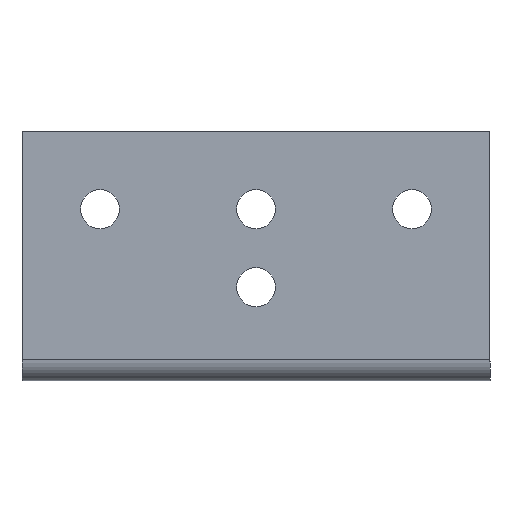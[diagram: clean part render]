
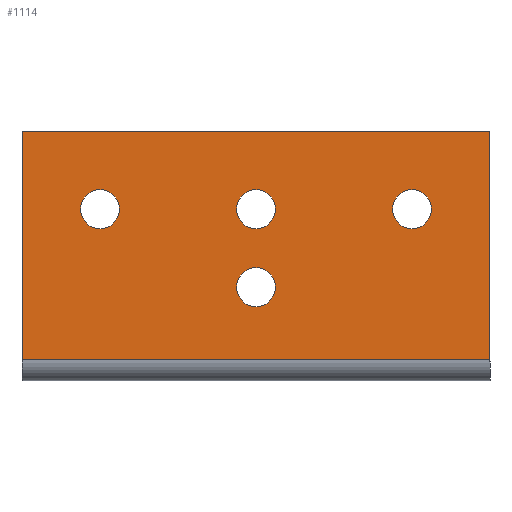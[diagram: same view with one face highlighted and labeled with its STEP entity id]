
A CAD part, front view. The second image highlights one B-rep face of the part: STEP entity #1114.
In plain terms, the highlighted planar face has unit normal (0, -1, 0).
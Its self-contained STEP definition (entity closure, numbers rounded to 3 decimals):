
#2 = CARTESIAN_POINT ( 'NONE',  ( 10., -2., -10. ) ) ;
#35 = DIRECTION ( 'NONE',  ( 0., 1., 0. ) ) ;
#51 = FACE_BOUND ( 'NONE', #857, .T. ) ;
#64 = CIRCLE ( 'NONE', #981, 2.5 ) ;
#65 = EDGE_CURVE ( 'NONE', #602, #1084, #356, .T. ) ;
#80 = CARTESIAN_POINT ( 'NONE',  ( 50., -2., -10. ) ) ;
#84 = DIRECTION ( 'NONE',  ( 0., 0., 1. ) ) ;
#107 = VECTOR ( 'NONE', #768, 1000. ) ;
#113 = EDGE_CURVE ( 'NONE', #634, #464, #713, .T. ) ;
#124 = LINE ( 'NONE', #564, #107 ) ;
#134 = DIRECTION ( 'NONE',  ( 0., 0., 1. ) ) ;
#164 = DIRECTION ( 'NONE',  ( 0., 0., 1. ) ) ;
#184 = EDGE_CURVE ( 'NONE', #1042, #402, #1016, .T. ) ;
#196 = EDGE_CURVE ( 'NONE', #321, #792, #492, .T. ) ;
#207 = PLANE ( 'NONE',  #683 ) ;
#212 = DIRECTION ( 'NONE',  ( 0., -1., 0. ) ) ;
#215 = DIRECTION ( 'NONE',  ( 0., 1., 0. ) ) ;
#227 = CARTESIAN_POINT ( 'NONE',  ( 60., -2., 0. ) ) ;
#235 = AXIS2_PLACEMENT_3D ( 'NONE', #614, #215, #1121 ) ;
#236 = EDGE_CURVE ( 'NONE', #678, #805, #124, .T. ) ;
#248 = LINE ( 'NONE', #385, #425 ) ;
#263 = DIRECTION ( 'NONE',  ( 0., 1., 0. ) ) ;
#269 = CARTESIAN_POINT ( 'NONE',  ( 0., -2., -29.264 ) ) ;
#278 = ORIENTED_EDGE ( 'NONE', *, *, #418, .T. ) ;
#281 = ORIENTED_EDGE ( 'NONE', *, *, #65, .T. ) ;
#295 = ORIENTED_EDGE ( 'NONE', *, *, #297, .T. ) ;
#297 = EDGE_CURVE ( 'NONE', #1084, #602, #733, .T. ) ;
#310 = ORIENTED_EDGE ( 'NONE', *, *, #597, .F. ) ;
#317 = CARTESIAN_POINT ( 'NONE',  ( 0., -2., 0. ) ) ;
#321 = VERTEX_POINT ( 'NONE', #390 ) ;
#337 = FACE_BOUND ( 'NONE', #986, .T. ) ;
#347 = CARTESIAN_POINT ( 'NONE',  ( 50., -2., -10. ) ) ;
#356 = CIRCLE ( 'NONE', #819, 2.5 ) ;
#365 = LINE ( 'NONE', #975, #1175 ) ;
#385 = CARTESIAN_POINT ( 'NONE',  ( 0., -2., 0. ) ) ;
#390 = CARTESIAN_POINT ( 'NONE',  ( 30., -2., -12.5 ) ) ;
#396 = CIRCLE ( 'NONE', #851, 2.5 ) ;
#402 = VERTEX_POINT ( 'NONE', #1233 ) ;
#418 = EDGE_CURVE ( 'NONE', #792, #321, #1190, .T. ) ;
#425 = VECTOR ( 'NONE', #1300, 1000. ) ;
#436 = AXIS2_PLACEMENT_3D ( 'NONE', #550, #35, #1250 ) ;
#441 = DIRECTION ( 'NONE',  ( 0., 0., -1. ) ) ;
#464 = VERTEX_POINT ( 'NONE', #835 ) ;
#483 = EDGE_CURVE ( 'NONE', #493, #805, #629, .T. ) ;
#492 = CIRCLE ( 'NONE', #608, 2.5 ) ;
#493 = VERTEX_POINT ( 'NONE', #227 ) ;
#509 = ORIENTED_EDGE ( 'NONE', *, *, #935, .T. ) ;
#531 = EDGE_LOOP ( 'NONE', ( #719, #509 ) ) ;
#542 = ORIENTED_EDGE ( 'NONE', *, *, #694, .F. ) ;
#543 = ORIENTED_EDGE ( 'NONE', *, *, #196, .T. ) ;
#549 = ORIENTED_EDGE ( 'NONE', *, *, #624, .T. ) ;
#550 = CARTESIAN_POINT ( 'NONE',  ( 30., -2., -20. ) ) ;
#556 = DIRECTION ( 'NONE',  ( 0., 1., 0. ) ) ;
#564 = CARTESIAN_POINT ( 'NONE',  ( 0., -2., -29.264 ) ) ;
#575 = CARTESIAN_POINT ( 'NONE',  ( 10., -2., -12.5 ) ) ;
#597 = EDGE_CURVE ( 'NONE', #1003, #493, #365, .T. ) ;
#599 = DIRECTION ( 'NONE',  ( 0., 1., 0. ) ) ;
#600 = ORIENTED_EDGE ( 'NONE', *, *, #483, .F. ) ;
#602 = VERTEX_POINT ( 'NONE', #575 ) ;
#608 = AXIS2_PLACEMENT_3D ( 'NONE', #875, #556, #972 ) ;
#614 = CARTESIAN_POINT ( 'NONE',  ( 30., -2., -10. ) ) ;
#622 = CARTESIAN_POINT ( 'NONE',  ( 10., -2., -7.5 ) ) ;
#624 = EDGE_CURVE ( 'NONE', #402, #1042, #64, .T. ) ;
#629 = LINE ( 'NONE', #939, #877 ) ;
#634 = VERTEX_POINT ( 'NONE', #878 ) ;
#653 = DIRECTION ( 'NONE',  ( 0., 1., 0. ) ) ;
#677 = CARTESIAN_POINT ( 'NONE',  ( 10., -2., -10. ) ) ;
#678 = VERTEX_POINT ( 'NONE', #269 ) ;
#683 = AXIS2_PLACEMENT_3D ( 'NONE', #317, #212, #1215 ) ;
#689 = DIRECTION ( 'NONE',  ( 0., 1., 0. ) ) ;
#694 = EDGE_CURVE ( 'NONE', #678, #1003, #248, .T. ) ;
#699 = ORIENTED_EDGE ( 'NONE', *, *, #184, .T. ) ;
#700 = AXIS2_PLACEMENT_3D ( 'NONE', #677, #689, #164 ) ;
#703 = CARTESIAN_POINT ( 'NONE',  ( 60., -2., -29.264 ) ) ;
#713 = CIRCLE ( 'NONE', #904, 2.5 ) ;
#719 = ORIENTED_EDGE ( 'NONE', *, *, #113, .T. ) ;
#723 = DIRECTION ( 'NONE',  ( 0., 1., 0. ) ) ;
#733 = CIRCLE ( 'NONE', #700, 2.5 ) ;
#748 = FACE_BOUND ( 'NONE', #531, .T. ) ;
#768 = DIRECTION ( 'NONE',  ( 1., 0., 0. ) ) ;
#792 = VERTEX_POINT ( 'NONE', #1097 ) ;
#804 = CARTESIAN_POINT ( 'NONE',  ( 0., -2., 0. ) ) ;
#805 = VERTEX_POINT ( 'NONE', #703 ) ;
#819 = AXIS2_PLACEMENT_3D ( 'NONE', #2, #723, #825 ) ;
#825 = DIRECTION ( 'NONE',  ( 0., 0., 1. ) ) ;
#835 = CARTESIAN_POINT ( 'NONE',  ( 50., -2., -12.5 ) ) ;
#838 = FACE_OUTER_BOUND ( 'NONE', #1290, .T. ) ;
#851 = AXIS2_PLACEMENT_3D ( 'NONE', #80, #599, #84 ) ;
#857 = EDGE_LOOP ( 'NONE', ( #699, #549 ) ) ;
#875 = CARTESIAN_POINT ( 'NONE',  ( 30., -2., -10. ) ) ;
#877 = VECTOR ( 'NONE', #441, 1000. ) ;
#878 = CARTESIAN_POINT ( 'NONE',  ( 50., -2., -7.5 ) ) ;
#880 = EDGE_LOOP ( 'NONE', ( #295, #281 ) ) ;
#904 = AXIS2_PLACEMENT_3D ( 'NONE', #347, #653, #134 ) ;
#935 = EDGE_CURVE ( 'NONE', #464, #634, #396, .T. ) ;
#939 = CARTESIAN_POINT ( 'NONE',  ( 60., -2., 0. ) ) ;
#972 = DIRECTION ( 'NONE',  ( 0., 0., 1. ) ) ;
#975 = CARTESIAN_POINT ( 'NONE',  ( 0., -2., 0. ) ) ;
#978 = DIRECTION ( 'NONE',  ( 0., 0., 1. ) ) ;
#981 = AXIS2_PLACEMENT_3D ( 'NONE', #1173, #263, #978 ) ;
#986 = EDGE_LOOP ( 'NONE', ( #278, #543 ) ) ;
#1003 = VERTEX_POINT ( 'NONE', #804 ) ;
#1012 = CARTESIAN_POINT ( 'NONE',  ( 30., -2., -17.5 ) ) ;
#1016 = CIRCLE ( 'NONE', #436, 2.5 ) ;
#1042 = VERTEX_POINT ( 'NONE', #1012 ) ;
#1058 = ORIENTED_EDGE ( 'NONE', *, *, #236, .T. ) ;
#1072 = DIRECTION ( 'NONE',  ( 1., 0., 0. ) ) ;
#1084 = VERTEX_POINT ( 'NONE', #622 ) ;
#1097 = CARTESIAN_POINT ( 'NONE',  ( 30., -2., -7.5 ) ) ;
#1102 = FACE_BOUND ( 'NONE', #880, .T. ) ;
#1114 = ADVANCED_FACE ( 'NONE', ( #748, #337, #51, #1102, #838 ), #207, .T. ) ;
#1121 = DIRECTION ( 'NONE',  ( 0., 0., 1. ) ) ;
#1173 = CARTESIAN_POINT ( 'NONE',  ( 30., -2., -20. ) ) ;
#1175 = VECTOR ( 'NONE', #1072, 1000. ) ;
#1190 = CIRCLE ( 'NONE', #235, 2.5 ) ;
#1215 = DIRECTION ( 'NONE',  ( 0., 0., -1. ) ) ;
#1233 = CARTESIAN_POINT ( 'NONE',  ( 30., -2., -22.5 ) ) ;
#1250 = DIRECTION ( 'NONE',  ( 0., 0., 1. ) ) ;
#1290 = EDGE_LOOP ( 'NONE', ( #542, #1058, #600, #310 ) ) ;
#1300 = DIRECTION ( 'NONE',  ( 0., 0., 1. ) ) ;
